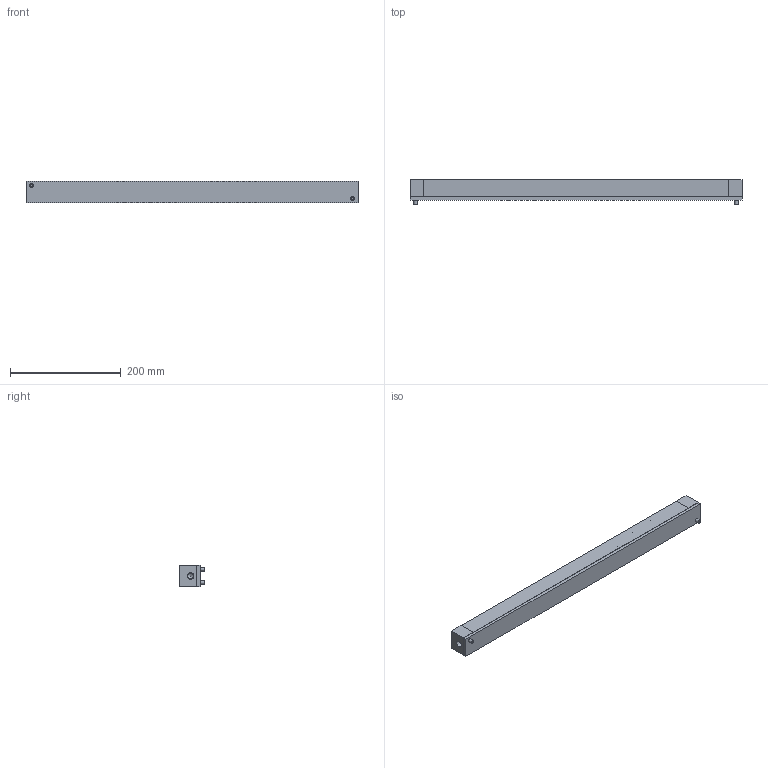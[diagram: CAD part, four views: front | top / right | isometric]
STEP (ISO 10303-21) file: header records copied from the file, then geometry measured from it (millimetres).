
FILE_DESCRIPTION( ( 'STEP AP214' ), '1' );
FILE_NAME( 'Z:/01-DesignData/標準品図面/★Web／カタログ用データ(型式別 3点Set)/067-ISR38 系/ISR38-600-A_0_.stp', '2022-05-10T00:07:33', ( 'License CC BY-ND 4.0' ), ( 'CADENAS' ), ' ', 'PARTsolutions', ' ' );
FILE_SCHEMA( ( 'AUTOMOTIVE_DESIGN { 1 0 10303 214 1 1 1 1 }' ) );
Length unit declared in the file: millimetre
Products named in the file (5): ISR38-600-A(0); _ISR38-600-A-Body; _ISR38-600-A-Box; _ISR38-600-A(0)-Ball; _ISR38-600-A-screw
Assembly tree (15 placements, depth 2):
  ISR38-600-A(0)
    _ISR38-600-A-Body
    _ISR38-600-A-Box
    _ISR38-600-A(0)-Ball  x11
    _ISR38-600-A-screw  x2
Bounding box: 600 x 45 x 38 mm (x, y, z)
Volume: 792487.9 mm3; surface area: 240252.9 mm2
Topology: 15 solids, 15 shells, 677 faces, 1420 edges, 880 vertices
Faces by surface type: plane 477, cylinder 111, cone 52, torus 26, sphere 11
Full cylindrical faces by diameter (mm): 6 x2, 6.5 x2, 7 x2, 8 x2, 8.5 x22, 9.5 x22, 10 x2, 11 x2, 25.7 x11, 31.5 x11, 32 x11, 35 x22
Entity records: 18240 total; most frequent: DIRECTION 2474, CARTESIAN_POINT 2278, ORIENTED_EDGE 2016, EDGE_CURVE 1008, AXIS2_PLACEMENT_3D 903, EDGE_LOOP 762, VERTEX_POINT 707, LINE 668
